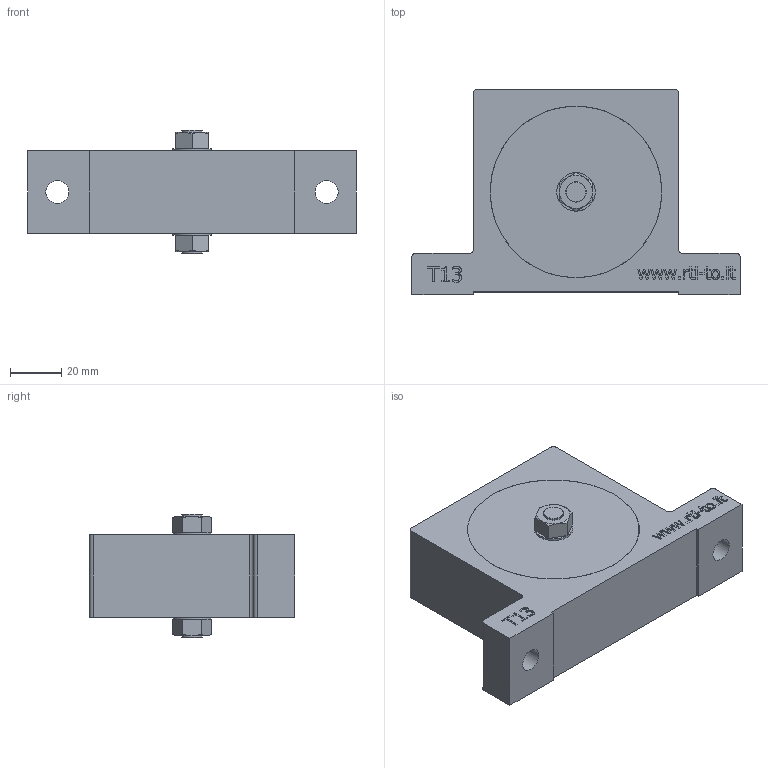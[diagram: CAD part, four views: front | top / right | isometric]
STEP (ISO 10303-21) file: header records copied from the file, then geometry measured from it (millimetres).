
FILE_DESCRIPTION((''),'2;1');
FILE_NAME('D:\UFFICIO TECNICO\PROGETTI PER PROTOTIPI\VIBRATORE - T13\VIBR. T13.stp','2015-09-14T13:04:54',('Piero'),(''),'Autodesk Inventor 2011','Autodesk Inventor 2011','');
FILE_SCHEMA(('CONFIG_CONTROL_DESIGN'));
Length unit declared in the file: millimetre
Products named in the file (1): T13
Bounding box: 128 x 80 x 48 mm (x, y, z)
Volume: 148423.1 mm3; surface area: 43721.3 mm2
Topology: 1 solids, 1 shells, 292 faces, 756 edges, 495 vertices
Faces by surface type: plane 218, bspline 47, cylinder 21, cone 6
Full cylindrical faces by diameter (mm): 2.5 x1, 6 x1, 8 x2, 9 x2, 11.445 x2, 15 x2, 62 x1, 66.9 x2, 67 x2
Entity records: 9001 total; most frequent: CARTESIAN_POINT 2226, ORIENTED_EDGE 1456, DIRECTION 1178, EDGE_CURVE 728, VECTOR 554, LINE 554, VERTEX_POINT 488, EDGE_LOOP 348
